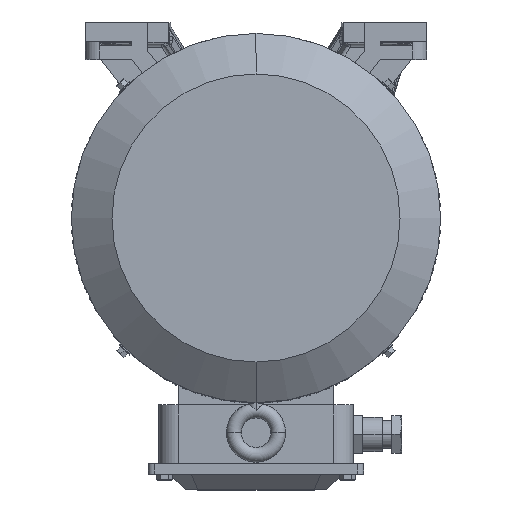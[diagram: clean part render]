
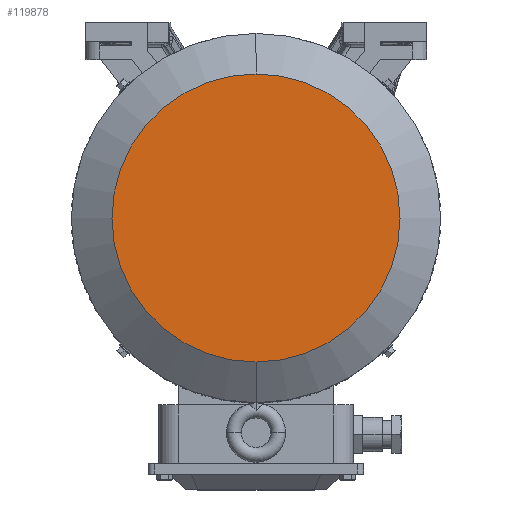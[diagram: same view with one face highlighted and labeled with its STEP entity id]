
A CAD part, top view. The second image highlights one B-rep face of the part: STEP entity #119878.
In plain terms, the highlighted planar face has unit normal (0, 0, 1).
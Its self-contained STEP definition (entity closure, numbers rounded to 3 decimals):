
#902 = CARTESIAN_POINT ( 'NONE',  ( 0., -183.3, 929. ) ) ;
#1888 = EDGE_CURVE ( 'NONE', #135905, #39345, #58164, .T. ) ;
#16072 = EDGE_LOOP ( 'NONE', ( #108645, #126435 ) ) ;
#16416 = CARTESIAN_POINT ( 'NONE',  ( 0., 0., 929. ) ) ;
#28539 = DIRECTION ( 'NONE',  ( 0., 1., 0. ) ) ;
#30761 = DIRECTION ( 'NONE',  ( 0., 0., -1. ) ) ;
#39345 = VERTEX_POINT ( 'NONE', #126114 ) ;
#39975 = DIRECTION ( 'NONE',  ( 0., 0., -1. ) ) ;
#40175 = DIRECTION ( 'NONE',  ( 0., 0., -1. ) ) ;
#57317 = EDGE_CURVE ( 'NONE', #39345, #135905, #134183, .T. ) ;
#58164 = CIRCLE ( 'NONE', #143062, 183.3 ) ;
#75676 = CARTESIAN_POINT ( 'NONE',  ( 0., 0., 929. ) ) ;
#86556 = DIRECTION ( 'NONE',  ( 0., 1., 0. ) ) ;
#98667 = FACE_OUTER_BOUND ( 'NONE', #16072, .T. ) ;
#99210 = DIRECTION ( 'NONE',  ( 0., 1., 0. ) ) ;
#100169 = PLANE ( 'NONE',  #104534 ) ;
#104534 = AXIS2_PLACEMENT_3D ( 'NONE', #134355, #40175, #86556 ) ;
#108645 = ORIENTED_EDGE ( 'NONE', *, *, #57317, .F. ) ;
#119878 = ADVANCED_FACE ( 'NONE', ( #98667 ), #100169, .F. ) ;
#126114 = CARTESIAN_POINT ( 'NONE',  ( 0., 183.3, 929. ) ) ;
#126435 = ORIENTED_EDGE ( 'NONE', *, *, #1888, .F. ) ;
#126949 = AXIS2_PLACEMENT_3D ( 'NONE', #16416, #39975, #99210 ) ;
#134183 = CIRCLE ( 'NONE', #126949, 183.3 ) ;
#134355 = CARTESIAN_POINT ( 'NONE',  ( 0., 183.3, 929. ) ) ;
#135905 = VERTEX_POINT ( 'NONE', #902 ) ;
#143062 = AXIS2_PLACEMENT_3D ( 'NONE', #75676, #30761, #28539 ) ;
